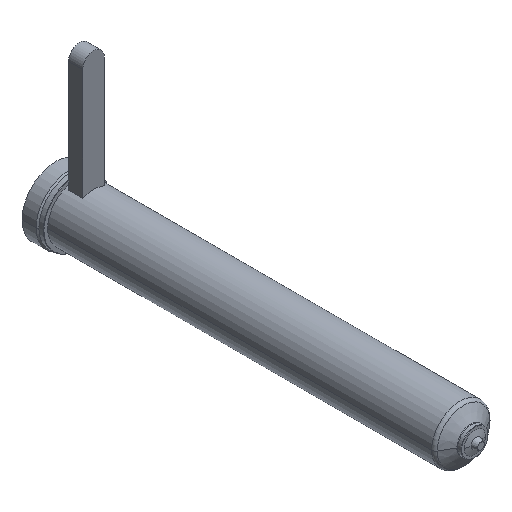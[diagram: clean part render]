
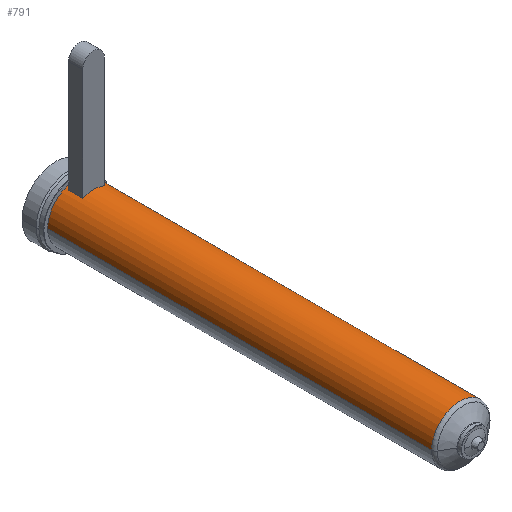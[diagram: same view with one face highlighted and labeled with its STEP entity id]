
A CAD part, isometric view. The second image highlights one B-rep face of the part: STEP entity #791.
In plain terms, the highlighted cylindrical face has radius 21 mm (diameter 42 mm), a partial arc.
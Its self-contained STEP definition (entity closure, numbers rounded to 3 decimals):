
#199=DIRECTION('',(0.,-1.,0.));
#200=VECTOR('',#199,284.428);
#201=CARTESIAN_POINT('',(21.,0.,0.));
#202=LINE('',#201,#200);
#203=CARTESIAN_POINT('',(0.,-284.428,0.));
#204=DIRECTION('',(0.,1.,0.));
#205=DIRECTION('',(-1.,0.,0.));
#206=AXIS2_PLACEMENT_3D('',#203,#204,#205);
#208=DIRECTION('',(0.,1.,0.));
#209=VECTOR('',#208,284.428);
#210=CARTESIAN_POINT('',(-21.,-284.428,0.));
#211=LINE('',#210,#209);
#212=CARTESIAN_POINT('',(0.,0.,0.));
#213=DIRECTION('',(0.,1.,0.));
#214=DIRECTION('',(-1.,0.,0.));
#215=AXIS2_PLACEMENT_3D('',#212,#213,#214);
#361=DIRECTION('',(0.,-1.,0.));
#362=VECTOR('',#361,10.5);
#363=CARTESIAN_POINT('',(-8.,-2.5,19.416));
#364=LINE('',#363,#362);
#365=CARTESIAN_POINT('',(0.,-13.,0.));
#366=DIRECTION('',(0.,1.,0.));
#367=DIRECTION('',(-0.381,0.,0.925));
#368=AXIS2_PLACEMENT_3D('',#365,#366,#367);
#391=CARTESIAN_POINT('',(0.,-2.5,0.));
#392=DIRECTION('',(0.,-1.,0.));
#393=DIRECTION('',(0.381,0.,0.925));
#394=AXIS2_PLACEMENT_3D('',#391,#392,#393);
#409=DIRECTION('',(0.,-1.,0.));
#410=VECTOR('',#409,10.5);
#411=CARTESIAN_POINT('',(8.,-2.5,19.416));
#412=LINE('',#411,#410);
#470=CARTESIAN_POINT('',(-21.,0.,0.));
#471=CARTESIAN_POINT('',(21.,0.,0.));
#472=VERTEX_POINT('',#470);
#473=VERTEX_POINT('',#471);
#482=CARTESIAN_POINT('',(-8.,-2.5,19.416));
#483=VERTEX_POINT('',#482);
#484=CARTESIAN_POINT('',(8.,-2.5,19.416));
#485=VERTEX_POINT('',#484);
#522=CARTESIAN_POINT('',(21.,-284.428,0.));
#523=VERTEX_POINT('',#522);
#532=CARTESIAN_POINT('',(-21.,-284.428,0.));
#533=VERTEX_POINT('',#532);
#550=CARTESIAN_POINT('',(-8.,-13.,19.416));
#551=CARTESIAN_POINT('',(8.,-13.,19.416));
#552=VERTEX_POINT('',#550);
#553=VERTEX_POINT('',#551);
#769=CARTESIAN_POINT('',(0.,16.4,0.));
#770=DIRECTION('',(0.,-1.,0.));
#771=DIRECTION('',(-1.,0.,0.));
#772=AXIS2_PLACEMENT_3D('',#769,#770,#771);
#773=CYLINDRICAL_SURFACE('',#772,21.);
#774=ORIENTED_EDGE('',*,*,#763,.T.);
#776=ORIENTED_EDGE('',*,*,#775,.F.);
#777=ORIENTED_EDGE('',*,*,#759,.T.);
#778=ORIENTED_EDGE('',*,*,#749,.T.);
#779=EDGE_LOOP('',(#774,#776,#777,#778));
#780=FACE_OUTER_BOUND('',#779,.F.);
#782=ORIENTED_EDGE('',*,*,#781,.T.);
#784=ORIENTED_EDGE('',*,*,#783,.T.);
#786=ORIENTED_EDGE('',*,*,#785,.F.);
#788=ORIENTED_EDGE('',*,*,#787,.T.);
#789=EDGE_LOOP('',(#782,#784,#786,#788));
#790=FACE_BOUND('',#789,.F.);
#791=ADVANCED_FACE('',(#780,#790),#773,.T.);
#207=CIRCLE('',#206,21.);
#216=CIRCLE('',#215,21.);
#369=CIRCLE('',#368,21.);
#395=CIRCLE('',#394,21.);
#749=EDGE_CURVE('',#472,#473,#216,.T.);
#759=EDGE_CURVE('',#533,#472,#211,.T.);
#763=EDGE_CURVE('',#473,#523,#202,.T.);
#775=EDGE_CURVE('',#533,#523,#207,.T.);
#781=EDGE_CURVE('',#483,#552,#364,.T.);
#783=EDGE_CURVE('',#552,#553,#369,.T.);
#785=EDGE_CURVE('',#485,#553,#412,.T.);
#787=EDGE_CURVE('',#485,#483,#395,.T.);
